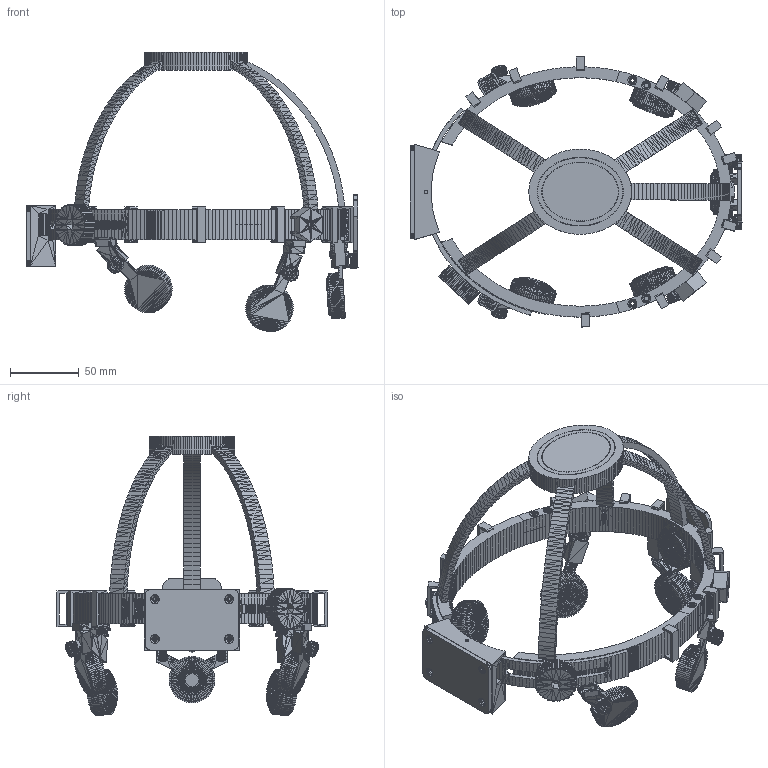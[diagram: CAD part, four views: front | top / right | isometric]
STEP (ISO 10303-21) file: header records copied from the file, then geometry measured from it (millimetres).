
FILE_DESCRIPTION(('Open CASCADE Model'),'2;1');
FILE_NAME('Open CASCADE Shape Model','2026-11-11T14:02:12',('Author'),( 'Open CASCADE'),'Open CASCADE STEP processor 7.9','Open CASCADE 7.9' ,'Unknown');
FILE_SCHEMA(('AUTOMOTIVE_DESIGN { 1 0 10303 214 1 1 1 1 }'));
Length unit declared in the file: millimetre
Products named in the file (56): NeuroX_HALO_v2; front; side_L; side_R; strap; crest; back_hub; back_cover; dial; temple_cap_L; temple_cap_R; hub; hub_cap; hub_ring; slider_temple_L; slider_temple_R; slider_ref_L; slider_ref_R; slider_nose; cup_forehead; cup_nose; cup_temple_L; cup_temple_R; cup_ref_L; cup_ref_R; rib_0; rib_1; rib_2; rib_3; rib_4; band_clip_1; band_clip_2; band_clip_3; band_clip_4; band_clip_5; band_clip_6; band_clip_7; band_clip_8; band_clip_9; band_clip_10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
Assembly tree (55 placements, depth 2):
  NeuroX_HALO_v2
    front
    side_L
    side_R
    strap
    crest
    back_hub
    back_cover
    dial
    temple_cap_L
    temple_cap_R
    hub
    hub_cap
    hub_ring
    slider_temple_L
    slider_temple_R
    slider_ref_L
    slider_ref_R
    slider_nose
    cup_forehead
    cup_nose
    cup_temple_L
    cup_temple_R
    cup_ref_L
    cup_ref_R
    rib_0
    rib_1
    rib_2
    rib_3
    rib_4
    band_clip_1
    band_clip_2
    band_clip_3
    band_clip_4
    band_clip_5
    band_clip_6
    band_clip_7
    band_clip_8
    band_clip_9
    band_clip_10
    band_clip_11
    band_clip_12
    arm_clip_temple_L_1
    arm_clip_temple_L_2
    arm_clip_ref_L_1
    arm_clip_ref_L_2
    arm_clip_temple_R_1
    arm_clip_temple_R_2
    arm_clip_ref_R_1
    arm_clip_ref_R_2
    lock_knob_temple_L
    lock_knob_temple_R
    lock_knob_ref_L
    lock_knob_ref_R
    lock_knob_nose_R
    lock_knob_nose_L
Bounding box: 241.53 x 196.43 x 203.2 mm (x, y, z)
Volume: 294548.4 mm3; surface area: 183251.6 mm2
Topology: 55 solids, 55 shells, 34226 faces, 57417 edges, 23222 vertices
Faces by surface type: plane 34226
Entity records: 1470269 total; most frequent: DIRECTION 240815, CARTESIAN_POINT 229755, LINE 172251, VECTOR 172251, ORIENTED_EDGE 114834, PCURVE 114834, DEFINITIONAL_REPRESENTATION 114834, EDGE_CURVE 57417
